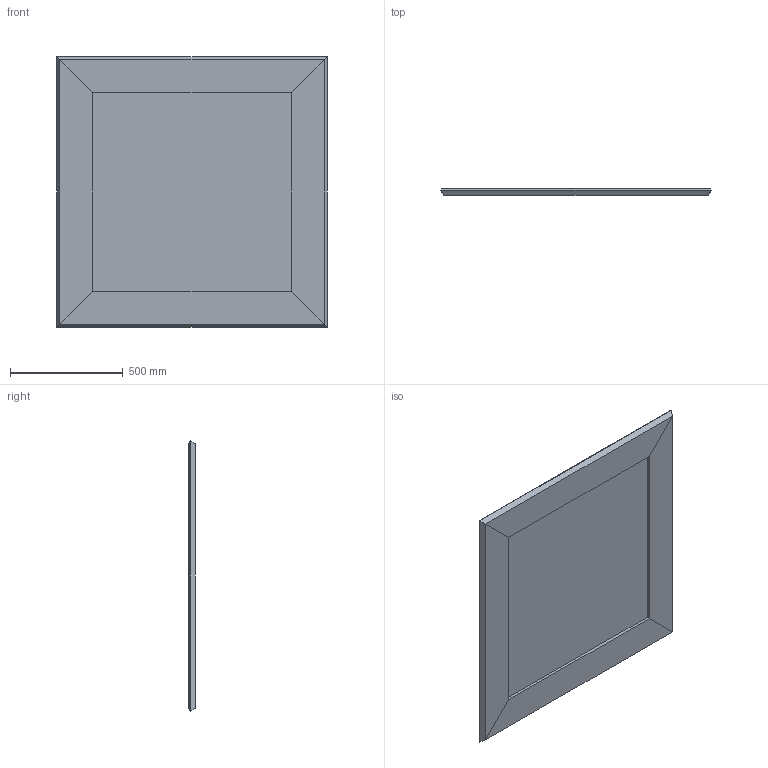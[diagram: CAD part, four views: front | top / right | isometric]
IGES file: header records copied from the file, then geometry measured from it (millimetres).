
Start section: SolidWorks IGES file using analytic representation for surfaces
Global section: file name: Y:\eforma\TECNICO\SOLIDWORKS\E-FORMA\4-SPECCHI\PRISMA\02 parts\PRI02_Prisma_120x120.IGS; native system: SolidWorks 2022; preprocessor: SolidWorks 2022; author: eforma.tech; date: 240806.094615; units: millimetre
Bounding box: 1200 x 30 x 1200 mm (x, y, z)
Volume: 26179186.2 mm3; surface area: 3383255.9 mm2
Topology: 5 solids, 5 shells, 166 faces, 424 edges, 272 vertices
Faces by surface type: plane 98, revolution 68
